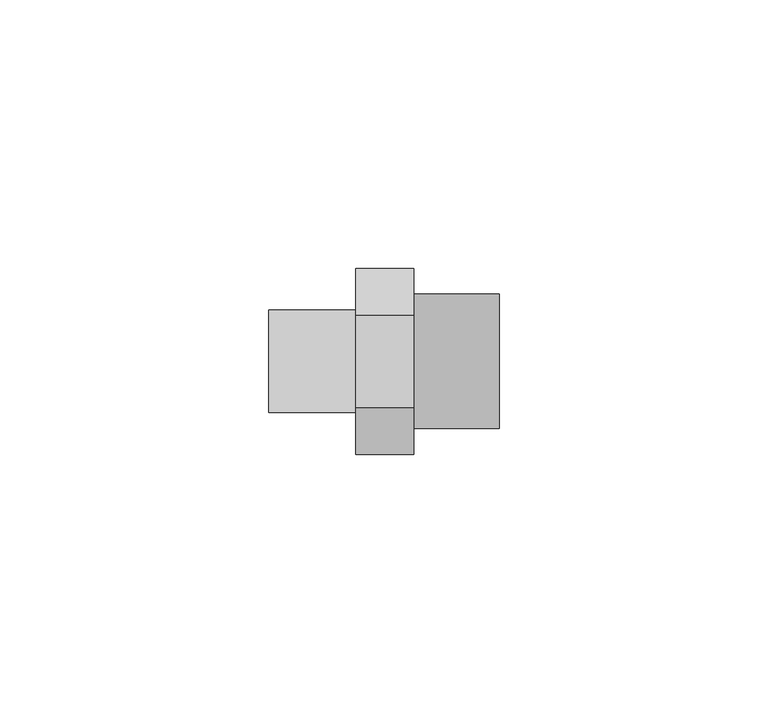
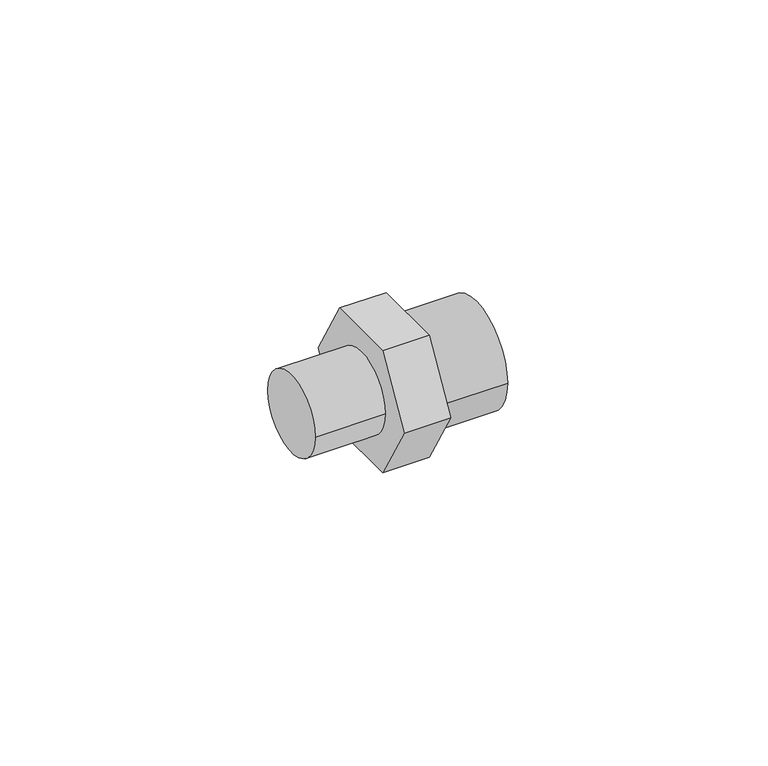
"""IFC4 building model written with IfcOpenShell, lengths in millimetres: pipe fitting geometry, 01101081 : Mamelons de réduction multiple FxMxM."""

from ifc_helpers import new_model, si_unit, point, frame, origin, origin_2d, place, context, project, spatial, polyline, circle_curve, trimmed, segment, composite_curve, outline, extrude, source, transform, mapped, element, save


def pipe_fitting_fc9ef3f7(model_context):
    return source(origin(), model_context, "Body", "SweptSolid", [
        extrude(outline(composite_curve([segment(trimmed(circle_curve(origin_2d(), 9.525), [point((9.525, 0.0))], [point((-9.525, 0.0))], False, "CARTESIAN"), True, "CONTINUOUS"), segment(trimmed(circle_curve(origin_2d(), 9.525), [point((-9.525, 0.0))], [point((9.525, 0.0))], False, "CARTESIAN"), True, "CONTINUOUS")], self_intersect=False)), frame((0.0, 0.0, 0.0), z_axis=(1.0, 0.0, 0.0), x_axis=(0.0, 1.0, 0.0)), (0.0, 0.0, 1.0), 16.25),
        extrude(outline(polyline([(-8.660254, 15.0), (8.660254, 15.0), (17.3205081, 0.0), (8.660254, -15.0), (-8.660254, -15.0), (-17.3205081, 0.0), (-8.660254, 15.0)])), frame((16.25, 0.0, 0.0), z_axis=(1.0, 0.0, 0.0), x_axis=(0.0, 1.0, 0.0)), (0.0, 0.0, 1.0), 10.75),
        extrude(outline(composite_curve([segment(trimmed(circle_curve(origin_2d(), 12.5), [point((-12.5, 0.0))], [point((12.5, 0.0))], False, "CARTESIAN"), True, "CONTINUOUS"), segment(trimmed(circle_curve(origin_2d(), 12.5), [point((12.5, 0.0))], [point((-12.5, 0.0))], False, "CARTESIAN"), True, "CONTINUOUS")], self_intersect=False)), frame((27.0, 0.0, 0.0), z_axis=(1.0, 0.0, 0.0), x_axis=(0.0, 1.0, 0.0)), (0.0, 0.0, 1.0), 16.0),
    ])


if __name__ == "__main__":
    model = new_model("IFC4")
    model_context = context("Model", 3, world=origin())
    ifc_project = project(units=[si_unit("LENGTHUNIT", "METRE", prefix="MILLI")], contexts=[model_context])
    site = spatial("IfcSite", under=ifc_project)
    building = spatial("IfcBuilding", under=site)
    placement = place(None, origin())
    pipe_fitting_shape = pipe_fitting_fc9ef3f7(model_context)
    element("IfcPipeFitting", 1, ObjectType="01101081 : Mamelons de réduction multiple FxMxM", at=placement, inside=building, context=model_context, shape_type="MappedRepresentation", body=[
        mapped(pipe_fitting_shape, transform((0.0, 0.0, 0.0), x_axis=(1.0, 0.0, 0.0), y_axis=(0.0, 1.0, 0.0), z_axis=(0.0, 0.0, 1.0))),
    ])
    save(model, "model.ifc")
